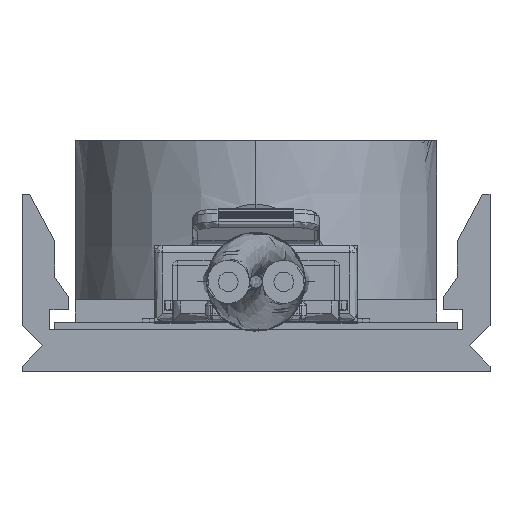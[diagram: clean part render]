
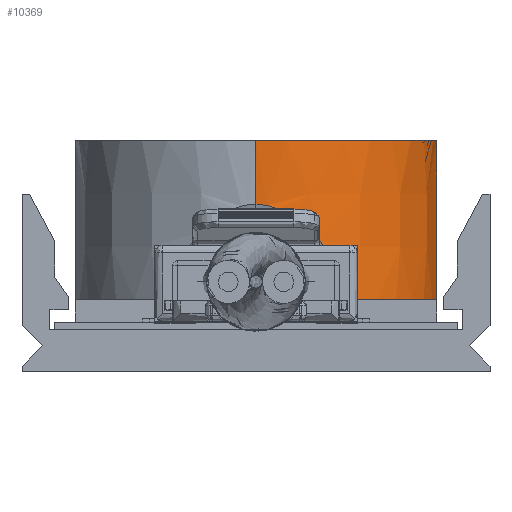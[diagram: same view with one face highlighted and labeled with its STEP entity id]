
A CAD part, left-side view. The second image highlights one B-rep face of the part: STEP entity #10369.
In plain terms, the highlighted conical face has half-angle 0.25 degrees and reference radius 7.183 mm.
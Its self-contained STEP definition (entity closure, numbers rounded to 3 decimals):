
#262 = ORIENTED_EDGE ( 'NONE', *, *, #19793, .T. ) ;
#2065 = CARTESIAN_POINT ( 'NONE',  ( 148666.65, 4000., -293.127 ) ) ;
#2713 = CARTESIAN_POINT ( 'NONE',  ( 148666.369, 3992.85, -293.127 ) ) ;
#4125 = DIRECTION ( 'NONE',  ( 0., 0., -1. ) ) ;
#4147 = DIRECTION ( 'NONE',  ( -0.004, 0., -1. ) ) ;
#5299 = AXIS2_PLACEMENT_3D ( 'NONE', #2065, #13730, #34111 ) ;
#6163 = CARTESIAN_POINT ( 'NONE',  ( 148659.484, 3998.588, -295.636 ) ) ;
#7054 = CARTESIAN_POINT ( 'NONE',  ( 148666.65, 4000., -299.4 ) ) ;
#8109 = VERTEX_POINT ( 'NONE', #36233 ) ;
#10162 = DIRECTION ( 'NONE',  ( -1., 0., 0. ) ) ;
#10369 = ADVANCED_FACE ( 'NONE', ( #15541 ), #16932, .T. ) ;
#10488 = CARTESIAN_POINT ( 'NONE',  ( 148666.369, 3992.85, -293.127 ) ) ;
#10903 = VECTOR ( 'NONE', #4147, 1000. ) ;
#10956 = EDGE_CURVE ( 'NONE', #8109, #22402, #16866, .T. ) ;
#11255 = DIRECTION ( 'NONE',  ( 0., 0., -1. ) ) ;
#12383 = ORIENTED_EDGE ( 'NONE', *, *, #14545, .T. ) ;
#13356 = CARTESIAN_POINT ( 'NONE',  ( 148660.651, 3996.049, -299.4 ) ) ;
#13730 = DIRECTION ( 'NONE',  ( 0., 0., -1. ) ) ;
#13815 = CARTESIAN_POINT ( 'NONE',  ( 148666.65, 4000., -299.4 ) ) ;
#14232 = EDGE_LOOP ( 'NONE', ( #12383, #22263, #262, #31901, #30241 ) ) ;
#14545 = EDGE_CURVE ( 'NONE', #23571, #8109, #20367, .T. ) ;
#15541 = FACE_OUTER_BOUND ( 'NONE', #14232, .T. ) ;
#16866 = LINE ( 'NONE', #33404, #10903 ) ;
#16932 = CONICAL_SURFACE ( 'NONE', #34079, 7.183, 0.004 ) ;
#18095 = EDGE_CURVE ( 'NONE', #29571, #36412, #23662, .T. ) ;
#18104 = CARTESIAN_POINT ( 'NONE',  ( 148659.884, 3997.234, -296.926 ) ) ;
#19793 = EDGE_CURVE ( 'NONE', #22402, #36412, #24040, .T. ) ;
#20225 = CARTESIAN_POINT ( 'NONE',  ( 148666.234, 3992.85, -294.342 ) ) ;
#20367 = CIRCLE ( 'NONE', #5299, 7.156 ) ;
#22263 = ORIENTED_EDGE ( 'NONE', *, *, #10956, .T. ) ;
#22402 = VERTEX_POINT ( 'NONE', #29204 ) ;
#23571 = VERTEX_POINT ( 'NONE', #10488 ) ;
#23662 = CIRCLE ( 'NONE', #25169, 7.183 ) ;
#24040 =( BOUNDED_CURVE ( )  B_SPLINE_CURVE ( 3, ( #29349, #6163, #18104, #32509 ),
 .UNSPECIFIED., .F., .F. ) 
 B_SPLINE_CURVE_WITH_KNOTS ( ( 4, 4 ),
 ( 3.142, 3.716 ),
 .UNSPECIFIED. ) 
 CURVE ( )  GEOMETRIC_REPRESENTATION_ITEM ( )  RATIONAL_B_SPLINE_CURVE ( ( 1., 0.973, 0.973, 1. ) ) 
 REPRESENTATION_ITEM ( '' )  );
#25169 = AXIS2_PLACEMENT_3D ( 'NONE', #7054, #4125, #10162 ) ;
#28410 = CARTESIAN_POINT ( 'NONE',  ( 148665.963, 3992.85, -299.4 ) ) ;
#28611 = DIRECTION ( 'NONE',  ( -1., 0., 0. ) ) ;
#29196 = B_SPLINE_CURVE_WITH_KNOTS ( 'NONE', 3,
 ( #2713, #20225, #31347, #28410 ),
 .UNSPECIFIED., .F., .F.,
 ( 4, 4 ),
 ( 0., 1. ),
 .UNSPECIFIED. ) ;
#29204 = CARTESIAN_POINT ( 'NONE',  ( 148659.484, 4000., -295.636 ) ) ;
#29349 = CARTESIAN_POINT ( 'NONE',  ( 148659.484, 4000., -295.636 ) ) ;
#29571 = VERTEX_POINT ( 'NONE', #29920 ) ;
#29920 = CARTESIAN_POINT ( 'NONE',  ( 148665.963, 3992.85, -299.4 ) ) ;
#30241 = ORIENTED_EDGE ( 'NONE', *, *, #34868, .F. ) ;
#31347 = CARTESIAN_POINT ( 'NONE',  ( 148666.099, 3992.85, -296.433 ) ) ;
#31901 = ORIENTED_EDGE ( 'NONE', *, *, #18095, .F. ) ;
#32509 = CARTESIAN_POINT ( 'NONE',  ( 148660.651, 3996.049, -299.4 ) ) ;
#33404 = CARTESIAN_POINT ( 'NONE',  ( 148659.467, 4000., -299.4 ) ) ;
#34079 = AXIS2_PLACEMENT_3D ( 'NONE', #13815, #11255, #28611 ) ;
#34111 = DIRECTION ( 'NONE',  ( -1., 0., 0. ) ) ;
#34868 = EDGE_CURVE ( 'NONE', #23571, #29571, #29196, .T. ) ;
#36233 = CARTESIAN_POINT ( 'NONE',  ( 148659.494, 4000., -293.127 ) ) ;
#36412 = VERTEX_POINT ( 'NONE', #13356 ) ;
